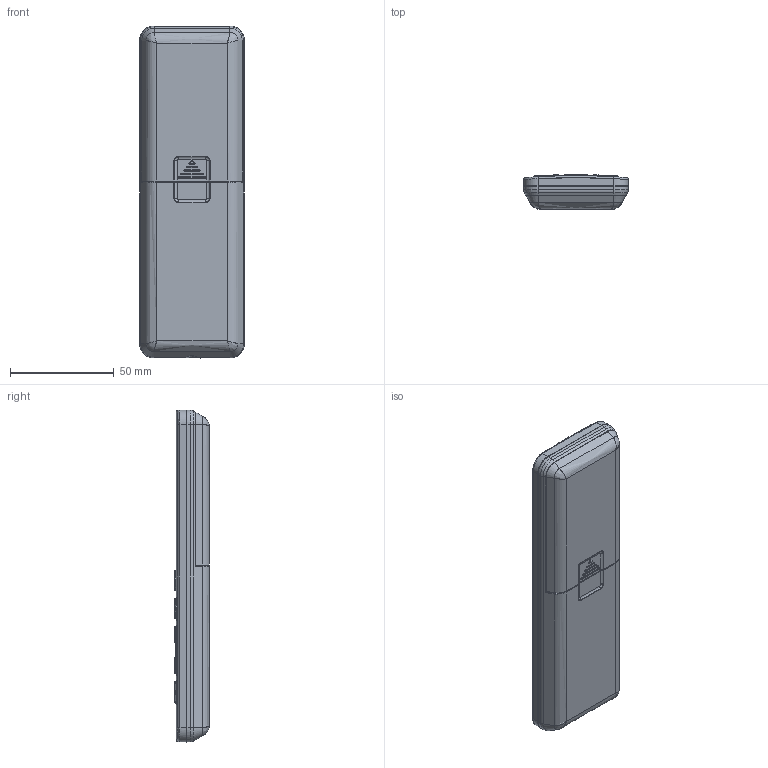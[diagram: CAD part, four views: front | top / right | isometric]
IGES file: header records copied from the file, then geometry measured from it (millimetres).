
Start section: SolidWorks IGES file using analytic representation for surfaces
Global section: file name: C:\Users\USER\Desktop\tx32-2024-0905_asm.IGS; native system: SolidWorks 2023; preprocessor: SolidWorks 2023; author: USER; date: 250515.092017; units: millimetre
Bounding box: 50.5 x 16.68 x 160 mm (x, y, z)
Surface area: 24567.3 mm2 (no closed solid volume)
Topology: 0 solids, 0 shells, 612 faces, 5311 edges, 5309 vertices
Faces by surface type: bspline 374, revolution 238
